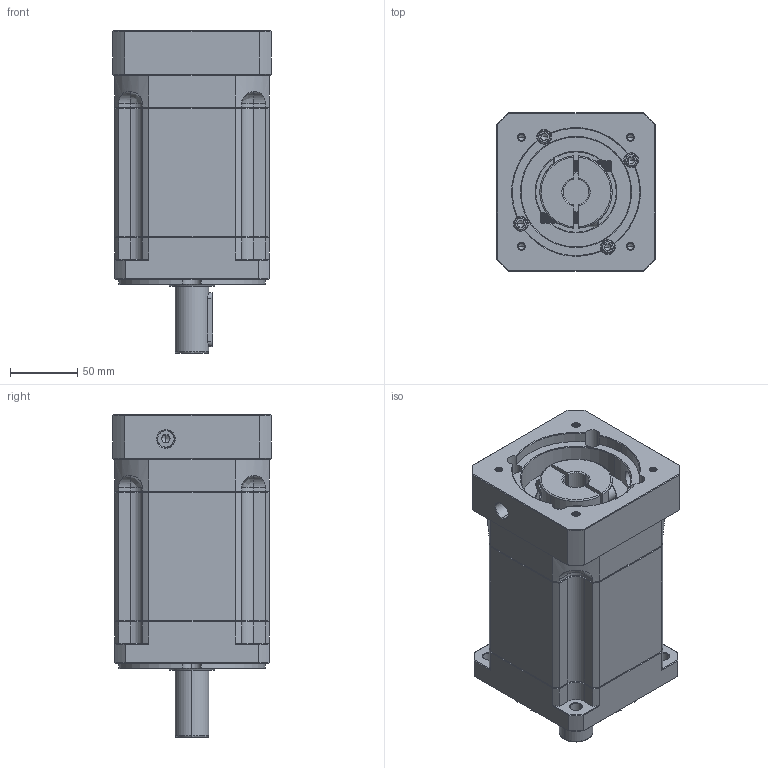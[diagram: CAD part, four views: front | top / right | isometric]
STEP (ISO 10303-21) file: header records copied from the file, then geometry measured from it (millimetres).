
FILE_DESCRIPTION (( 'STEP AP214' ), '1' );
FILE_NAME ('ZB115A-D25-L3-P2-19-95-115-M6.step', '2023-08-26T06:24:49', ( '' ), ( '' ), 'SwSTEP 2.0', 'SolidWorks 2016', '' );
FILE_SCHEMA (( 'AUTOMOTIVE_DESIGN' ));
Length unit declared in the file: millimetre
Products named in the file (1): ZB115A-D25-L3-P2-19-95-115-M6
Bounding box: 118 x 118 x 240.5 mm (x, y, z)
Volume: 2125204 mm3; surface area: 185653.3 mm2
Topology: 6 solids, 6 shells, 2382 faces, 6284 edges, 3998 vertices
Faces by surface type: plane 1144, bspline 443, cylinder 412, cone 383
Entity records: 126377 total; most frequent: CARTESIAN_POINT 44716, ORIENTED_EDGE 12500, DIRECTION 9944, EDGE_CURVE 6250, VERTEX_POINT 3998, LINE 3984, VECTOR 3984, AXIS2_PLACEMENT_3D 2980
